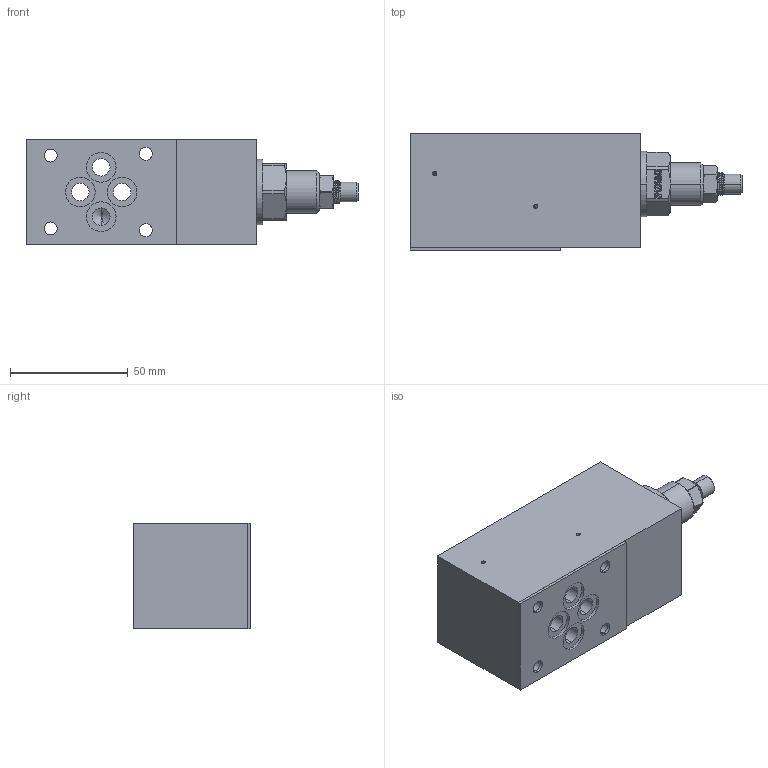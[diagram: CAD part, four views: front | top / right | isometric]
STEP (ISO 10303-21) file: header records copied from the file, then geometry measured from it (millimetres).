
FILE_DESCRIPTION (( 'STEP AP214' ), '1' );
FILE_NAME ('ADRT6.STEP', '2017-04-10T12:59:44', ( '' ), ( '' ), 'SwSTEP 2.0', 'SolidWorks 2016', '' );
FILE_SCHEMA (( 'AUTOMOTIVE_DESIGN' ));
Length unit declared in the file: millimetre
Products named in the file (1): ADRT6
Bounding box: 141.2 x 49.75 x 45 mm (x, y, z)
Volume: 214965.3 mm3; surface area: 38510.5 mm2
Topology: 2 solids, 5 shells, 356 faces, 906 edges, 577 vertices
Faces by surface type: plane 153, cylinder 84, cone 60, bspline 55, sphere 4
Entity records: 18131 total; most frequent: CARTESIAN_POINT 5944, ORIENTED_EDGE 1784, DIRECTION 1528, EDGE_CURVE 892, VERTEX_POINT 577, AXIS2_PLACEMENT_3D 514, VECTOR 500, LINE 500
